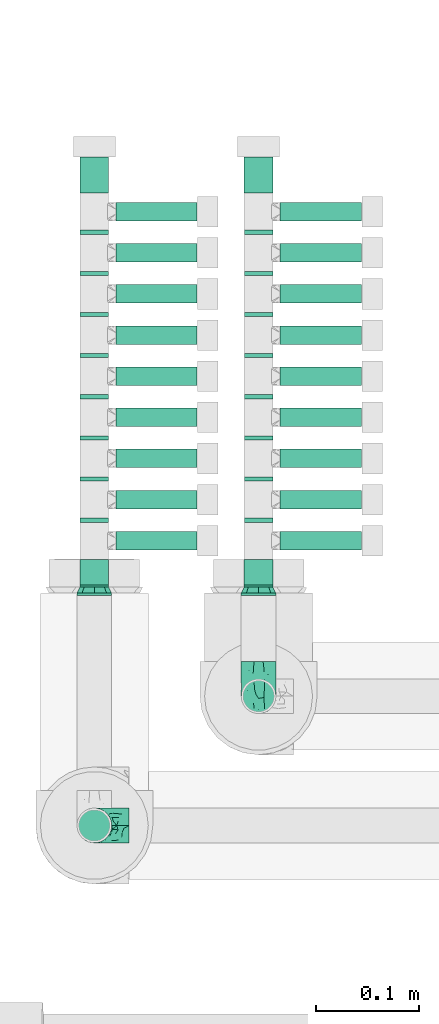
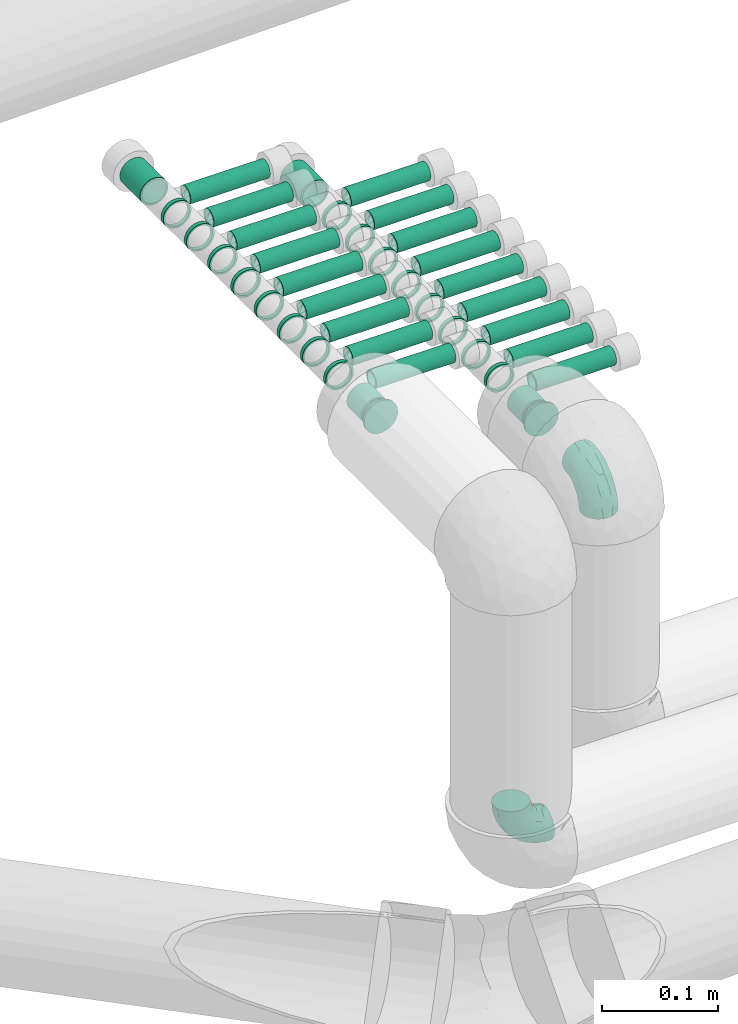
# One storey, part 43 of 83: 38 flow segments, 4 flow fittings.
"""IFC2X3 building model written with IfcOpenShell, lengths in millimetres."""

import ifcopenshell
import ifcopenshell.guid

model = None  # the IFC model being written
_history = None  # IfcOwnerHistory: only IFC2X3 demands one
_inside = {}  # id of a spatial element -> (the spatial element, [elements in it])
_under = {}  # id of a project, library or spatial element -> (it, [spatial elements below it])
_declared = {}  # id of a project -> (the project, [libraries it declares])
_typed = {}  # id of a type object -> (the type object, [elements of that type])
_made_of = {}  # id of a material, layer set ... -> (it, [elements and type objects made of it])


def new_model(schema):
    """Start an empty IFC model of exactly this schema.

    Asked for "IFC4X3", IfcOpenShell would pick the latest addendum, in which some entities
    have other attributes; the version numbers below select the first issue.
    IFC2X3 requires an IfcOwnerHistory on every rooted entity: one is made here for all.
    """
    global model, _history
    if schema == "IFC4X3":
        model = ifcopenshell.file(schema_version=(4, 3, 0, 0))
    else:
        model = ifcopenshell.file(schema=schema)
    _inside.clear()
    _under.clear()
    _declared.clear()
    _typed.clear()
    _made_of.clear()
    _history = None
    if model.schema == "IFC2X3":
        org = make("IfcOrganization", Name="unknown")
        user = make(
            "IfcPersonAndOrganization",
            ThePerson=make("IfcPerson", FamilyName="unknown"),
            TheOrganization=org,
        )
        app = make(
            "IfcApplication",
            ApplicationDeveloper=org,
            Version="unknown",
            ApplicationFullName="unknown",
            ApplicationIdentifier="unknown",
        )
        _history = make(
            "IfcOwnerHistory",
            OwningUser=user,
            OwningApplication=app,
            ChangeAction="ADDED",
            CreationDate=0,
        )
    return model


def make(cls, **values):
    """One entity of the class cls with the attributes given. An attribute that is None is left unset."""
    return model.create_entity(
        cls, **{name: value for name, value in values.items() if value is not None}
    )


def entity(cls, *values):
    """Any entity or typed value of the class cls, its attributes in the order of the schema. None: left unset."""
    e = model.create_entity(cls)
    for i, value in enumerate(values):
        if value is not None:
            e[i] = value
    return e


def rooted(cls, **values):
    """An entity with a GlobalId (a new one), such as an element, a storey or a relation."""
    return make(cls, GlobalId=ifcopenshell.guid.new(), OwnerHistory=_history, **values)


def si_unit(unit_type, name, prefix=None):
    """IfcSIUnit, for example si_unit("LENGTHUNIT", "METRE", prefix="MILLI")."""
    return make("IfcSIUnit", UnitType=unit_type, Prefix=prefix, Name=name)


def converted_unit(unit_type, name, factor, base, dimensions=None, offset=None):
    """IfcConversionBasedUnit, such as the inch: factor (a typed value) times the base unit."""
    return make(
        "IfcConversionBasedUnit"
        if offset is None
        else "IfcConversionBasedUnitWithOffset",
        ConversionOffset=offset,
        Dimensions=None
        if dimensions is None
        else entity("IfcDimensionalExponents", *dimensions),
        UnitType=unit_type,
        Name=name,
        ConversionFactor=make(
            "IfcMeasureWithUnit", ValueComponent=factor, UnitComponent=base
        ),
    )


def derived_unit(unit_type, elements):
    """IfcDerivedUnit: a product of units, each with its exponent."""
    return make(
        "IfcDerivedUnit",
        Elements=[
            make("IfcDerivedUnitElement", Unit=unit, Exponent=power)
            for unit, power in elements
        ],
        UnitType=unit_type,
    )


def assignment(units):
    """IfcUnitAssignment: the units of a project."""
    return None if units is None else make("IfcUnitAssignment", Units=units)


def point(xyz):
    """IfcCartesianPoint."""
    return None if xyz is None else make("IfcCartesianPoint", Coordinates=xyz)


def direction(xyz):
    """IfcDirection."""
    return None if xyz is None else make("IfcDirection", DirectionRatios=xyz)


def frame(location, z_axis=None, x_axis=None):
    """IfcAxis2Placement3D, a coordinate frame: its origin and axes. An axis left out is left unset."""
    return make(
        "IfcAxis2Placement3D",
        Location=point(location),
        Axis=direction(z_axis),
        RefDirection=direction(x_axis),
    )


def frame_2d(location, x_axis=None):
    """IfcAxis2Placement2D, a coordinate frame in the plane: its origin and x axis."""
    return make(
        "IfcAxis2Placement2D", Location=point(location), RefDirection=direction(x_axis)
    )


def origin_with_axes():
    """The frame at (0, 0, 0) with the z axis (0, 0, 1) and the x axis (1, 0, 0) written out."""
    return frame((0.0, 0.0, 0.0), z_axis=(0.0, 0.0, 1.0), x_axis=(1.0, 0.0, 0.0))


def origin_2d_with_axis():
    """The frame at (0, 0) in the plane with the x axis (1, 0) written out."""
    return frame_2d((0.0, 0.0), x_axis=(1.0, 0.0))


def place(relative_to, where):
    """IfcLocalPlacement: puts the frame where relative to a parent placement (None: the world)."""
    return make(
        "IfcLocalPlacement", PlacementRelTo=relative_to, RelativePlacement=where
    )


def context(
    kind, dimensions, precision=None, world=None, true_north=None, identifier=None
):
    """IfcGeometricRepresentationContext, for example the 3D "Model" context."""
    return make(
        "IfcGeometricRepresentationContext",
        ContextIdentifier=identifier,
        ContextType=kind,
        CoordinateSpaceDimension=dimensions,
        Precision=precision,
        WorldCoordinateSystem=world,
        TrueNorth=true_north,
    )


def subcontext(parent, identifier, kind, view, scale=None):
    """IfcGeometricRepresentationSubContext, for example "Body" below "Model"."""
    return make(
        "IfcGeometricRepresentationSubContext",
        ContextIdentifier=identifier,
        ContextType=kind,
        ParentContext=parent,
        TargetScale=scale,
        TargetView=view,
    )


def project(units=None, contexts=None):
    """IfcProject with its units and contexts."""
    return rooted(
        "IfcProject",
        Name="project",
        RepresentationContexts=contexts,
        UnitsInContext=assignment(units),
    )


def spatial(cls, under=None, at=None, **own):
    """A site, building, storey or space (cls), placed at a placement, below another one or the project."""
    s = rooted(cls, ObjectPlacement=at, **own)
    if under is not None:
        _under.setdefault(under.id(), (under, []))[1].append(s)
    return s


def profile(cls, at=None, kind="AREA", **sizes):
    """A parametric profile (cls). Its sizes go by their IFC names, for example OverallWidth=200.0."""
    return make(cls, ProfileType=kind, Position=at, **sizes)


def hollow_circle(**sizes):
    """IfcCircleHollowProfileDef."""
    return profile("IfcCircleHollowProfileDef", **sizes)


def extrude(swept, where, along, depth):
    """IfcExtrudedAreaSolid: the profile swept, set in the frame where, extruded along a direction by depth."""
    return make(
        "IfcExtrudedAreaSolid",
        SweptArea=swept,
        Position=where,
        ExtrudedDirection=direction(along),
        Depth=depth,
    )


def faces_of(points, faces, orient=None, outer=None):
    """IfcFace entities. A face is a list of loops; a loop is a list of indices into points, from 0.

    orient and outer hold one flag for each loop. By default every Orientation is true, the
    first loop of a face is its IfcFaceOuterBound and the others are IfcFaceBound.
    """
    made = []
    for i, loops in enumerate(faces):
        bounds = []
        for j, loop in enumerate(loops):
            is_outer = j == 0 if outer is None else outer[i][j]
            bounds.append(
                make(
                    "IfcFaceOuterBound" if is_outer else "IfcFaceBound",
                    Bound=make("IfcPolyLoop", Polygon=[points[k] for k in loop]),
                    Orientation=True if orient is None else orient[i][j],
                )
            )
        made.append(make("IfcFace", Bounds=bounds))
    return made


def open_shell(faces, orient=None, outer=None):
    """The faces of one IfcOpenShell. surface_model builds it on its shared points."""
    return ("IfcOpenShell", faces, orient, outer)


def surface_model(cls, points, shells):
    """IfcFaceBasedSurfaceModel or IfcShellBasedSurfaceModel (cls): surfaces that need not close."""
    shared = [point(p) for p in points]
    made = [make(c, CfsFaces=faces_of(shared, fs, o, b)) for c, fs, o, b in shells]
    if cls == "IfcFaceBasedSurfaceModel":
        return make(cls, FbsmFaces=made)
    return make(cls, SbsmBoundary=made)


def shape(context_of_items, identifier, shape_type, items):
    """IfcShapeRepresentation: the items that make up one representation, for example the "Body"."""
    return make(
        "IfcShapeRepresentation",
        ContextOfItems=context_of_items,
        RepresentationIdentifier=identifier,
        RepresentationType=shape_type,
        Items=items,
    )


def source(mapping_origin, context_of_items, identifier, shape_type, items):
    """IfcRepresentationMap: a shape defined once, which mapped items show again and again."""
    return make(
        "IfcRepresentationMap",
        MappingOrigin=mapping_origin,
        MappedRepresentation=shape(context_of_items, identifier, shape_type, items),
    )


def transform(
    local_origin,
    x_axis=None,
    y_axis=None,
    z_axis=None,
    scale=None,
    scale2=None,
    scale3=None,
    uniform=True,
):
    """IfcCartesianTransformationOperator3D, or its non-uniform kind. x_axis, y_axis, z_axis: its Axis1, 2, 3."""
    if uniform:
        return make(
            "IfcCartesianTransformationOperator3D",
            Axis1=direction(x_axis),
            Axis2=direction(y_axis),
            LocalOrigin=point(local_origin),
            Scale=scale,
            Axis3=direction(z_axis),
        )
    return make(
        "IfcCartesianTransformationOperator3DnonUniform",
        Axis1=direction(x_axis),
        Axis2=direction(y_axis),
        LocalOrigin=point(local_origin),
        Scale=scale,
        Axis3=direction(z_axis),
        Scale2=scale2,
        Scale3=scale3,
    )


def mapped(mapping_source, mapping_target):
    """IfcMappedItem: shows the shape of a source again, moved by a transform."""
    return make(
        "IfcMappedItem", MappingSource=mapping_source, MappingTarget=mapping_target
    )


def made_of(thing, what):
    """Note that an element or type object is made of a material, layer set ...; save() writes the relation."""
    if what is not None:
        _made_of.setdefault(what.id(), (what, []))[1].append(thing)
    return thing


def type_object(cls, material=None, **own):
    """A type object (cls), such as IfcWallType, which elements share."""
    return made_of(rooted(cls, **own), material)


def element(
    cls,
    number,
    at=None,
    inside=None,
    cuts=None,
    type_object=None,
    material=None,
    context=None,
    identifier="Body",
    shape_type=None,
    held_by="IfcProductDefinitionShape",
    body=None,
    shapes=None,
    **own,
):
    """One element of the class cls, such as IfcWall. Its Tag is "e" and its number.

    at: its placement. inside: the storey or other place that contains it. cuts: it is an
    opening in that element (IfcRelVoidsElement). A single representation is given by context,
    identifier, shape_type and body (its items); several are given by shapes. held_by: the class
    of the entity that holds the representations. save() writes the other relations.
    """
    e = rooted(cls, Tag="e%d" % number, ObjectPlacement=at, **own)
    if body is not None:
        shapes = [shape(context, identifier, shape_type, body)]
    if shapes is not None:
        e.Representation = make(held_by, Representations=shapes)
    if inside is not None:
        _inside.setdefault(inside.id(), (inside, []))[1].append(e)
    if cuts is not None:
        rooted(
            "IfcRelVoidsElement", RelatingBuildingElement=cuts, RelatedOpeningElement=e
        )
    if type_object is not None:
        _typed.setdefault(type_object.id(), (type_object, []))[1].append(e)
    return made_of(e, material)


def aggregate(whole, parts):
    """IfcRelAggregates: a whole, such as a stair, and the parts it consists of."""
    return rooted("IfcRelAggregates", RelatingObject=whole, RelatedObjects=parts)


def save(model, path):
    """Write the relations noted so far, then the file.

    IfcRelAggregates (storeys below a building ...), IfcRelContainedInSpatialStructure (elements
    in a storey), IfcRelDefinesByType, IfcRelAssociatesMaterial and IfcRelDeclares: one each for
    every whole, place, type object, material and project.
    """
    for whole, parts in _under.values():
        aggregate(whole, parts)
    for where, things in _inside.values():
        rooted(
            "IfcRelContainedInSpatialStructure",
            RelatedElements=things,
            RelatingStructure=where,
        )
    for kind, things in _typed.values():
        rooted("IfcRelDefinesByType", RelatedObjects=things, RelatingType=kind)
    for what, things in _made_of.values():
        rooted("IfcRelAssociatesMaterial", RelatedObjects=things, RelatingMaterial=what)
    for by, libraries in _declared.values():
        rooted("IfcRelDeclares", RelatingContext=by, RelatedDefinitions=libraries)
    model.write(path)


model = new_model("IFC2X3")

# Units and contexts
model_context = context("Model", 3, precision=0.01, world=frame((0.0, 4.29681676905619e-09, 0.0)), true_north=direction((4.01073788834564e-13, 1.0)))
plan_context = context("Plan", 3, precision=0.01, world=frame((0.0, 4.29681676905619e-09, 0.0)), true_north=direction((4.01073788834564e-13, 1.0)))
body_context = subcontext(model_context, "Body", "Model", "MODEL_VIEW")
ifc_project = project(units=[converted_unit("PLANEANGLEUNIT", "DEGREE", entity("IfcPositiveLengthMeasure", 0.0174532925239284), si_unit("PLANEANGLEUNIT", "RADIAN"), dimensions=[0, 0, 0, 0, 0, 0, 0]), si_unit("AREAUNIT", "SQUARE_METRE"), si_unit("LENGTHUNIT", "METRE", prefix="MILLI"), si_unit("MASSUNIT", "GRAM", prefix="KILO"), si_unit("POWERUNIT", "WATT"), si_unit("PRESSUREUNIT", "PASCAL"), si_unit("FORCEUNIT", "NEWTON", prefix="KILO"), si_unit("ELECTRICVOLTAGEUNIT", "VOLT"), si_unit("ELECTRICCURRENTUNIT", "AMPERE"), si_unit("THERMODYNAMICTEMPERATUREUNIT", "DEGREE_CELSIUS"), si_unit("TIMEUNIT", "SECOND"), si_unit("VOLUMEUNIT", "CUBIC_METRE"), derived_unit("LINEARVELOCITYUNIT", [(si_unit("LENGTHUNIT", "METRE"), 1), (si_unit("TIMEUNIT", "SECOND"), -1)]), derived_unit("VOLUMETRICFLOWRATEUNIT", [(si_unit("VOLUMEUNIT", "CUBIC_METRE"), 1), (si_unit("TIMEUNIT", "SECOND"), -1)]), derived_unit("THERMALTRANSMITTANCEUNIT", [(si_unit("POWERUNIT", "WATT"), 1), (si_unit("THERMODYNAMICTEMPERATUREUNIT", "KELVIN"), -1), (si_unit("AREAUNIT", "SQUARE_METRE"), -1)]), derived_unit("SOUNDPRESSUREUNIT", [(si_unit("PRESSUREUNIT", "PASCAL"), 1)])], contexts=[model_context, plan_context])

# Site, building, storey
site_placement = place(None, frame((0.0, -4.29681676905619e-09, 0.0), z_axis=(0.0, 0.0, 1.0), x_axis=(1.0, 0.0, 0.0)))
site = spatial("IfcSite", under=ifc_project, at=site_placement, Name="ENGM", CompositionType="ELEMENT")
building_placement = place(site_placement, frame((0.0, 4.29681676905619e-09, 0.0), z_axis=(0.0, 0.0, 1.0), x_axis=(1.0, 0.0, 0.0)))
building = spatial("IfcBuilding", under=site, at=building_placement, Name="TI", CompositionType="ELEMENT")
storey_placement = place(building_placement, frame((0.0, 0.0, 204000.0), z_axis=(0.0, 0.0, 1.0), x_axis=(1.0, 0.0, 0.0)))
storey = spatial("IfcBuildingStorey", under=building, at=storey_placement, Name="Nivå D", CompositionType="ELEMENT", Elevation=204000.0)

# Flow fittings
pipe_fitting_type_1 = type_object("IfcPipeFittingType", Name="magi_pipe_fe_elbow_short_001", PredefinedType="BEND")
shared_shape_1 = source(origin_with_axes(), body_context, "Body", "SurfaceModel", [
    surface_model("IfcShellBasedSurfaceModel", [(-33.8, 4.37404, -16.32415), (-33.8, 0.0, -16.9), (-33.8, 11.9501, -11.9501), (-33.8, 8.45, -14.63583), (-33.8, 16.32415, -4.37404), (-33.8, 14.63583, -8.45), (-33.8, -14.63583, -8.45), (-33.8, -16.32415, -4.37404), (-33.8, -8.45, 14.63583), (-33.8, -11.9501, -11.9501), (-33.8, -8.45, -14.63583), (-33.8, -4.37404, -16.32415), (-33.8, -16.9, 0.0), (-33.8, -16.32415, 4.37404), (-33.8, 11.9501, 11.9501), (-33.8, 14.63583, 8.45), (-33.8, 16.32415, 4.37404), (-33.8, 4.37404, 16.32415), (-33.8, 8.45, 14.63583), (-33.8, -14.63583, 8.45), (-33.8, -11.9501, 11.9501), (-33.8, -4.37404, 16.32415), (-33.8, 0.0, 16.9), (-33.8, 16.9, 0.0), (-11.9501, 33.8, -11.9501), (0.0, 33.8, -16.9), (-4.37404, 33.8, -16.32415), (-8.45, 33.8, -14.63583), (-14.63583, 33.8, -8.45), (-16.32415, 33.8, -4.37404), (14.63583, 33.8, -8.45), (8.45, 33.8, 14.63583), (16.32415, 33.8, -4.37404), (8.45, 33.8, -14.63583), (11.9501, 33.8, -11.9501), (4.37404, 33.8, -16.32415), (16.32415, 33.8, 4.37404), (16.9, 33.8, 0.0), (-11.9501, 33.8, 11.9501), (-16.32415, 33.8, 4.37404), (-14.63583, 33.8, 8.45), (-8.45, 33.8, 14.63583), (-4.37404, 33.8, 16.32415), (11.9501, 33.8, 11.9501), (14.63583, 33.8, 8.45), (0.0, 33.8, 16.9), (4.37404, 33.8, 16.32415), (-16.9, 33.8, 0.0), (-24.79389, -13.12945, 9.48721), (-22.19287, -9.75018, 12.59315), (-24.09897, -14.97035, 0.0), (-14.93934, -10.76256, 8.5297), (-22.46095, -14.75051, 5.27077), (14.75051, 22.46094, 5.27077), (11.9251, 13.23888, 4.33236), (13.04069, 14.39795, 0.0), (7.71387, 13.68847, 11.55891), (9.75018, 22.19287, 12.59315), (4.10169, 13.0571, 14.04018), (-24.84007, -6.39063, 15.2048), (-25.81779, -2.23879, 16.61097), (-23.66549, 2.59054, 16.87119), (-26.50418, 14.06512, 11.08152), (-24.21253, 17.66365, 7.72657), (-29.58514, 15.86957, 7.00283), (-6.17382, -7.5455, 0.0), (-13.23888, -11.9251, 4.33236), (-14.39795, -13.04069, 0.0), (-17.81434, 18.87373, 11.97104), (-6.30846, 29.15138, 15.82987), (-2.31622, 25.28002, 16.85849), (-29.23923, 10.23435, 13.77053), (-1.45439, -2.85688, 7.61475), (-0.28326, 0.34872, 10.09509), (-5.74484, -4.04709, 10.4122), (-4.41137, 11.31918, 16.59407), (-8.39727, 3.10034, 15.7812), (-1.72649, 9.1306, 15.53089), (-17.39909, 24.75344, 7.64977), (-26.19233, 20.0512, 0.0), (-28.14518, 17.29657, 4.25857), (-26.05147, 6.6281, 15.96447), (-5.87354, 16.61944, 16.86968), (-12.51807, 12.51807, 16.48937), (-10.06312, 7.38516, 16.81295), (-3.01882, 3.01882, 13.81718), (-13.0571, -4.10169, 14.04018), (-16.82553, -0.15166, 16.38038), (10.76256, 14.93934, 8.5297), (13.12945, 24.79389, 9.48721), (6.39063, 24.84007, 15.2048), (2.23879, 25.81779, 16.61097), (-13.68847, -7.71387, 11.55891), (14.97035, 24.09897, 0.0), (-7.30894, 22.89991, 16.09489), (-10.67958, 26.17414, 14.008), (-12.78295, 18.26924, 15.06066), (-13.88562, 22.45231, 12.93244), (-18.04944, 15.16501, 14.04434), (-23.11658, 20.08178, 4.02986), (-21.84989, 21.84989, 0.0), (-18.55817, 25.48277, 3.93065), (-13.95142, 26.94732, 11.03289), (-18.57098, 7.23906, 16.59756), (-16.58335, 4.14122, 16.89279), (-17.96666, 11.46709, 15.63151), (-9.84453, 17.54304, 16.18938), (0.15166, 16.82553, 16.38038), (-23.27207, 11.47201, 14.23154), (3.84842, 5.86994, 10.70473), (-8.0212, -7.54413, 7.93275), (1.00345, -2.19508, 4.57414), (5.13203, 3.01004, 5.90201), (5.24161, 1.7543, 2.53265), (8.70457, 7.04947, 3.99182), (-20.0512, 26.19233, 0.0), (8.4852, 8.76699, 7.09296), (-4.55488, -6.72064, 4.90681), (2.05031, -2.05031, 0.0), (7.5455, 6.17382, 0.0), (-26.75399, 2.1369, -16.845), (-14.61995, 24.73803, -11.27736), (-28.45274, -13.45335, -9.81895), (-26.00469, 6.63555, -15.96645), (-23.06726, 20.04573, -4.26202), (-13.80647, -4.26506, -14.17873), (-14.67501, -0.21081, -16.07388), (-6.7902, -0.2828, -13.8478), (-24.53586, 11.08096, -14.13417), (-26.72048, 14.00837, -11.05776), (10.0967, 24.44989, -12.75976), (5.83237, 21.40218, -15.03047), (6.66249, 28.54238, -15.38093), (-20.38182, 15.48705, -12.74596), (12.53268, 21.23441, -9.15363), (12.54494, 15.67504, -5.54878), (9.7522, 12.89279, -8.66343), (-15.65186, 19.64213, -13.01327), (-12.03528, 20.66498, -14.67665), (-15.61907, 15.61906, -14.83879), (-25.56551, -15.26206, 0.0), (-24.65452, -15.12934, -5.50955), (13.45335, 28.45274, -9.81895), (15.12934, 24.65452, -5.50955), (-7.35442, -8.31014, -5.65563), (-15.67504, -12.54494, -5.54878), (-24.44989, -10.0967, -12.75976), (0.16522, 0.41303, -9.71728), (-5.70658, -5.33066, -8.89288), (-5.13869, -2.37198, -11.53565), (-21.23441, -12.53268, -9.15363), (0.71146, 7.93863, -14.09382), (0.21081, 14.67501, -16.07388), (3.49291, 14.42772, -14.76381), (-24.89911, -2.13088, -16.591), (-28.54238, -6.66249, -15.38093), (-18.44386, -7.71663, -13.26957), (2.13088, 24.89911, -16.591), (-28.64342, 17.44413, -2.89318), (1.70017, -1.28722, -5.09504), (-16.57067, 26.81947, -7.36596), (-17.69055, 27.4263, -3.76405), (-12.89279, -9.7522, -8.66343), (-5.96611, 5.96611, -15.95814), (-20.53709, 20.09345, -8.28985), (-2.1369, 26.75399, -16.845), (-6.89872, 24.58781, -16.02578), (-10.60739, 26.53157, -13.98044), (-21.40218, -5.83237, -15.03047), (2.93192, 5.89627, -11.55917), (6.89393, 12.61842, -11.82233), (5.58056, 5.95325, -8.79455), (-3.99512, 18.61798, -16.89635), (8.31014, 7.35442, -5.65563), (-9.1383, 9.86148, -16.89041), (-9.99983, 16.02119, -16.39699), (-16.68576, 9.78031, -16.34199), (-27.01915, 16.61158, -7.12979), (15.26206, 25.56551, 0.0), (-18.61798, 3.99512, -16.89635), (-19.37495, 27.82495, 0.0), (-12.61842, -6.89393, -11.82233), (-18.84705, 19.14018, -10.96545)], [open_shell([[[0, 1, 2]], [[3, 0, 2]], [[4, 5, 2]], [[6, 2, 1]], [[2, 7, 8]], [[9, 6, 10]], [[1, 11, 10]], [[10, 6, 1]], [[2, 6, 7]], [[12, 13, 7]], [[4, 2, 14]], [[4, 15, 16]], [[4, 14, 15]], [[17, 18, 14]], [[14, 2, 8]], [[17, 14, 8]], [[19, 20, 13]], [[20, 7, 13]], [[21, 22, 8]], [[20, 8, 7]], [[8, 22, 17]], [[4, 16, 23]], [[24, 25, 26]], [[24, 26, 27]], [[24, 28, 29]], [[25, 24, 30]], [[31, 32, 24]], [[33, 30, 34]], [[33, 35, 25]], [[25, 30, 33]], [[32, 30, 24]], [[32, 36, 37]], [[38, 24, 29]], [[39, 40, 29]], [[40, 38, 29]], [[38, 41, 42]], [[38, 31, 24]], [[31, 38, 42]], [[36, 43, 44]], [[36, 32, 43]], [[31, 45, 46]], [[32, 31, 43]], [[42, 45, 31]], [[39, 29, 47]], [[20, 48, 49]], [[13, 12, 50]], [[51, 48, 52]], [[53, 54, 55]], [[48, 20, 19]], [[13, 52, 19]], [[56, 57, 58]], [[49, 8, 20]], [[49, 59, 8]], [[22, 60, 61]], [[62, 63, 64]], [[65, 66, 67]], [[57, 43, 31]], [[62, 68, 63]], [[42, 69, 70]], [[18, 71, 14]], [[21, 60, 22]], [[72, 73, 74]], [[75, 76, 77]], [[14, 62, 15]], [[40, 39, 78]], [[79, 23, 80]], [[64, 16, 15]], [[22, 61, 17]], [[17, 81, 18]], [[82, 83, 84]], [[74, 85, 86]], [[59, 86, 87]], [[88, 89, 57]], [[90, 31, 46]], [[44, 53, 36]], [[46, 45, 91]], [[54, 53, 88]], [[44, 89, 53]], [[92, 86, 49]], [[89, 44, 43]], [[8, 59, 21]], [[53, 55, 93]], [[93, 36, 53]], [[66, 52, 67]], [[94, 82, 70]], [[95, 96, 94]], [[97, 98, 96]], [[79, 99, 100]], [[41, 38, 95]], [[101, 100, 99]], [[68, 78, 63]], [[42, 41, 69]], [[23, 16, 80]], [[95, 94, 69]], [[78, 101, 99]], [[38, 102, 95]], [[70, 45, 42]], [[97, 95, 102]], [[13, 50, 52]], [[90, 57, 31]], [[57, 90, 58]], [[81, 17, 61]], [[103, 104, 84]], [[105, 81, 103]], [[38, 40, 102]], [[106, 96, 83]], [[94, 106, 82]], [[91, 70, 107]], [[71, 62, 14]], [[62, 108, 98]], [[86, 59, 49]], [[67, 52, 50]], [[60, 59, 87]], [[92, 49, 51]], [[86, 85, 76]], [[91, 90, 46]], [[37, 36, 93]], [[107, 77, 58]], [[107, 58, 90]], [[58, 85, 109]], [[110, 74, 92]], [[72, 74, 110]], [[66, 51, 52]], [[72, 111, 112]], [[113, 114, 112]], [[56, 88, 57]], [[52, 48, 19]], [[49, 48, 51]], [[57, 89, 43]], [[53, 89, 88]], [[103, 81, 61]], [[71, 81, 108]], [[16, 64, 80]], [[63, 78, 99]], [[47, 115, 101]], [[101, 115, 100]], [[40, 78, 102]], [[68, 102, 78]], [[97, 96, 95]], [[105, 98, 108]], [[103, 84, 83]], [[107, 70, 82]], [[76, 84, 87]], [[82, 84, 75]], [[70, 91, 45]], [[90, 91, 107]], [[59, 60, 21]], [[61, 60, 87]], [[73, 85, 74]], [[109, 112, 116]], [[103, 61, 104]], [[105, 103, 83]], [[96, 105, 83]], [[81, 105, 108]], [[96, 98, 105]], [[62, 98, 68]], [[61, 87, 104]], [[87, 84, 104]], [[86, 76, 87]], [[77, 76, 85]], [[58, 77, 85]], [[75, 77, 107]], [[82, 75, 107]], [[76, 75, 84]], [[81, 71, 18]], [[62, 71, 108]], [[95, 69, 41]], [[70, 69, 94]], [[62, 64, 15]], [[80, 63, 99]], [[63, 80, 64]], [[80, 99, 79]], [[66, 65, 117]], [[110, 66, 117]], [[112, 114, 116]], [[118, 117, 65]], [[110, 92, 51]], [[112, 111, 113]], [[119, 55, 54]], [[74, 86, 92]], [[58, 109, 56]], [[116, 56, 109]], [[66, 110, 51]], [[72, 110, 117]], [[111, 72, 117]], [[73, 112, 109]], [[117, 118, 111]], [[113, 111, 118]], [[118, 119, 113]], [[114, 119, 54]], [[119, 114, 113]], [[116, 54, 88]], [[54, 116, 114]], [[116, 88, 56]], [[112, 73, 72]], [[85, 73, 109]], [[78, 39, 101]], [[47, 101, 39]], [[102, 68, 97]], [[97, 68, 98]], [[82, 106, 83]], [[94, 96, 106]], [[0, 120, 1]], [[28, 24, 121]], [[9, 122, 6]], [[3, 123, 0]], [[100, 124, 79]], [[125, 126, 127]], [[128, 2, 129]], [[130, 131, 132]], [[128, 129, 133]], [[134, 135, 136]], [[137, 138, 139]], [[128, 3, 2]], [[67, 140, 141]], [[134, 142, 143]], [[141, 7, 6]], [[144, 65, 145]], [[146, 9, 10]], [[147, 148, 149]], [[145, 141, 150]], [[151, 152, 153]], [[154, 11, 1]], [[10, 155, 146]], [[150, 146, 156]], [[155, 10, 11]], [[143, 135, 134]], [[35, 157, 25]], [[23, 79, 158]], [[148, 159, 144]], [[160, 161, 29]], [[145, 162, 144]], [[163, 152, 151]], [[29, 28, 160]], [[121, 164, 160]], [[33, 34, 130]], [[25, 165, 26]], [[26, 165, 166]], [[142, 34, 30]], [[24, 27, 167]], [[124, 161, 164]], [[157, 35, 132]], [[155, 154, 168]], [[123, 3, 128]], [[169, 170, 171]], [[172, 157, 152]], [[26, 166, 27]], [[132, 35, 33]], [[142, 130, 34]], [[168, 154, 126]], [[136, 135, 173]], [[133, 137, 139]], [[2, 5, 129]], [[170, 131, 130]], [[30, 32, 143]], [[172, 174, 175]], [[176, 123, 128]], [[158, 177, 4]], [[135, 55, 119]], [[167, 27, 166]], [[175, 166, 172]], [[137, 167, 138]], [[122, 141, 6]], [[140, 12, 7]], [[32, 37, 178]], [[170, 130, 134]], [[152, 157, 131]], [[165, 157, 172]], [[153, 170, 151]], [[152, 163, 174]], [[168, 125, 156]], [[122, 146, 150]], [[120, 154, 1]], [[179, 174, 126]], [[179, 126, 154]], [[126, 163, 127]], [[162, 145, 150]], [[140, 7, 141]], [[32, 178, 143]], [[55, 143, 178]], [[177, 129, 5]], [[128, 133, 139]], [[176, 128, 139]], [[120, 123, 179]], [[121, 160, 28]], [[161, 100, 180]], [[166, 175, 138]], [[121, 24, 167]], [[161, 47, 29]], [[79, 124, 158]], [[124, 164, 177]], [[161, 124, 100]], [[136, 171, 170]], [[127, 163, 151]], [[147, 171, 159]], [[148, 144, 162]], [[127, 151, 169]], [[127, 181, 125]], [[129, 177, 164]], [[5, 4, 177]], [[159, 65, 144]], [[67, 141, 145]], [[143, 55, 135]], [[135, 119, 173]], [[123, 120, 0]], [[154, 120, 179]], [[157, 165, 25]], [[166, 165, 172]], [[172, 152, 174]], [[176, 139, 175]], [[126, 174, 163]], [[176, 174, 179]], [[174, 176, 175]], [[123, 176, 179]], [[150, 181, 162]], [[127, 149, 181]], [[181, 148, 162]], [[159, 148, 147]], [[171, 136, 173]], [[170, 134, 136]], [[159, 171, 173]], [[171, 147, 169]], [[169, 147, 149]], [[151, 170, 169]], [[164, 182, 129]], [[182, 121, 137]], [[181, 149, 148]], [[169, 149, 127]], [[182, 137, 133]], [[167, 137, 121]], [[166, 138, 167]], [[175, 139, 138]], [[129, 182, 133]], [[121, 182, 164]], [[161, 160, 164]], [[47, 161, 180]], [[177, 158, 124]], [[23, 158, 4]], [[130, 132, 33]], [[157, 132, 131]], [[143, 142, 30]], [[130, 142, 134]], [[154, 155, 11]], [[146, 155, 168]], [[146, 122, 9]], [[141, 122, 150]], [[152, 131, 153]], [[159, 119, 118]], [[67, 145, 65]], [[170, 153, 131]], [[119, 159, 173]], [[159, 118, 65]], [[156, 125, 181]], [[126, 125, 168]], [[150, 156, 181]], [[168, 156, 146]]])]),
])
for number, where, z_axis, x_axis, name in (
    (1, (603209.87398, 693361.26264, 6283.60000000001), (-1.0, 0.0, 0.0), (0.0, 0.0, 1.0), "magi_pipe_fe_elbow_short_001"),
    (2, (603050.14337, 693235.60884, 6040.5), (0.0, 1.0, 0.0), (-1.0, 0.0, 0.0), "magi_pipe_fe_elbow_short_001"),
):
    element("IfcFlowFitting", number, at=place(storey_placement, frame(where, z_axis=z_axis, x_axis=x_axis)), inside=storey, type_object=pipe_fitting_type_1, Name=name, context=body_context, shape_type="MappedRepresentation", body=[
        mapped(shared_shape_1, transform((0.0, 0.0, 0.0), scale=1.0)),
    ])
pipe_fitting_type_2 = type_object("IfcPipeFittingType", Name="magi_pipe_fe_reducer_centric_short_NOR", PredefinedType="TRANSITION")
shared_shape_2 = source(origin_with_axes(), body_context, "Body", "SurfaceModel", [
    surface_model("IfcShellBasedSurfaceModel", [(-2.0, 11.9501, 11.9501), (-2.0, 0.0, 16.9), (-2.0, 4.37404, 16.32415), (-2.0, 8.45, 14.63583), (-2.0, 14.63583, 8.45), (-2.0, 16.32415, 4.37404), (-2.0, -16.32415, 4.37404), (-2.0, -8.45, 14.63583), (-2.0, -14.63583, 8.45), (-2.0, -11.9501, 11.9501), (-2.0, -4.37404, 16.32415), (-2.0, -16.32415, -4.37404), (-2.0, -16.9, 0.0), (-2.0, -8.45, -14.63583), (-2.0, 16.32415, -4.37404), (-2.0, 11.9501, -11.9501), (-2.0, 14.63583, -8.45), (-2.0, 8.45, -14.63583), (-2.0, 4.37404, -16.32415), (-2.0, 0.0, -16.9), (-2.0, -11.9501, -11.9501), (-2.0, -14.63583, -8.45), (-2.0, -4.37404, -16.32415), (-2.0, 16.9, 0.0), (0.0, 4.37404, -16.32415), (0.0, 8.45, -14.63583), (0.0, 11.9501, -11.9501), (0.0, 0.0, -16.9), (0.0, 16.32415, -4.37404), (0.0, 16.32415, 4.37404), (0.0, 14.63583, -8.45), (0.0, -8.45, -14.63583), (0.0, -4.37404, -16.32415), (0.0, -11.9501, -11.9501), (0.0, -16.32415, -4.37404), (0.0, -14.63583, -8.45), (0.0, -16.32415, 4.37404), (0.0, 16.9, 0.0), (0.0, 14.63583, 8.45), (0.0, 11.9501, 11.9501), (0.0, 4.37404, 16.32415), (0.0, 8.45, 14.63583), (0.0, 0.0, 16.9), (0.0, -14.63583, 8.45), (0.0, -16.9, 0.0), (0.0, -8.45, 14.63583), (0.0, -11.9501, 11.9501), (0.0, -4.37404, 16.32415), (5.8, -9.89949, -9.89949), (5.8, -9.89949, 9.89949), (5.8, -14.0, 0.0), (7.8, 3.62347, -13.52296), (7.8, 7.0, -12.12436), (7.8, 9.89949, -9.89949), (7.8, 12.12436, -7.0), (7.8, 13.52296, -3.62347), (7.8, -7.0, -12.12436), (7.8, -12.12436, -7.0), (7.8, 14.0, 0.0), (7.8, 0.0, -14.0), (7.8, -3.62347, -13.52296), (7.8, -9.89949, -9.89949), (7.8, -13.52296, -3.62347), (7.8, 13.52296, 3.62347), (7.8, 12.12436, 7.0), (7.8, 9.89949, 9.89949), (7.8, 0.0, 14.0), (7.8, 3.62347, 13.52296), (7.8, 7.0, 12.12436), (7.8, -3.62347, 13.52296), (7.8, -13.52296, 3.62347), (7.8, -9.89949, 9.89949), (7.8, -12.12436, 7.0), (7.8, -14.0, 0.0), (7.8, -7.0, 12.12436), (5.8, 9.89949, 9.89949), (5.8, 0.0, 14.0), (5.8, 3.62347, 13.52296), (5.8, 7.0, 12.12436), (5.8, 12.12436, 7.0), (5.8, 13.52296, 3.62347), (5.8, -12.12436, -7.0), (5.8, -3.62347, 13.52296), (5.8, -7.0, 12.12436), (5.8, -13.52296, 3.62347), (5.8, -12.12436, 7.0), (5.8, 13.52296, -3.62347), (5.8, 3.62347, -13.52296), (5.8, 12.12436, -7.0), (5.8, 9.89949, -9.89949), (5.8, 7.0, -12.12436), (5.8, 0.0, -14.0), (5.8, -7.0, -12.12436), (5.8, -13.52296, -3.62347), (5.8, -3.62347, -13.52296), (5.8, 14.0, 0.0), (5.8, 12.79462, -2.91004), (0.0, 15.44494, -3.51284), (5.8, 4.94975, -11.94975), (0.0, 5.97505, -14.42505), (0.0, 8.96258, -13.18758), (0.0, 2.98753, -15.66253), (5.8, 7.42462, -10.92462), (0.0, 13.18758, -8.96258), (5.8, 11.58924, -5.82008), (5.8, 2.47487, -12.97487), (0.0, -15.44494, -3.51284), (0.0, -14.42505, -5.97505), (5.8, -11.94975, -4.94975), (0.0, 14.42505, -5.97505), (5.8, -2.47487, -12.97487), (5.8, -10.92462, -7.42462), (5.8, -12.97487, -2.47487), (0.0, -13.18758, -8.96258), (5.8, -4.94975, -11.94975), (5.8, -7.42462, -10.92462), (0.0, -5.97505, -14.42505), (0.0, -2.98753, -15.66253), (0.0, -8.96258, -13.18758), (5.8, -12.79462, 2.91004), (0.0, -15.44494, 3.51284), (5.8, -4.94975, 11.94975), (0.0, -5.97505, 14.42505), (0.0, -8.96258, 13.18758), (0.0, -2.98753, 15.66253), (5.8, -7.42462, 10.92462), (0.0, -13.18758, 8.96258), (5.8, -11.58924, 5.82008), (5.8, -2.47487, 12.97487), (0.0, 15.44494, 3.51284), (0.0, 14.42505, 5.97505), (5.8, 11.94975, 4.94975), (0.0, -14.42505, 5.97505), (5.8, 2.47487, 12.97487), (5.8, 10.92462, 7.42462), (5.8, 12.97487, 2.47487), (0.0, 13.18758, 8.96258), (5.8, 4.94975, 11.94975), (5.8, 7.42462, 10.92462), (0.0, 5.97505, 14.42505), (0.0, 2.98753, 15.66253), (0.0, 8.96258, 13.18758)], [open_shell([[[0, 1, 2]], [[0, 2, 3]], [[0, 4, 5]], [[0, 5, 1]], [[1, 5, 6]], [[7, 8, 9]], [[7, 10, 1]], [[8, 7, 1]], [[1, 6, 8]], [[6, 11, 12]], [[6, 5, 13]], [[5, 14, 15]], [[15, 14, 16]], [[15, 17, 18]], [[13, 5, 15]], [[19, 15, 18]], [[11, 20, 21]], [[20, 11, 13]], [[13, 19, 22]], [[11, 6, 13]], [[15, 19, 13]], [[5, 23, 14]], [[24, 25, 26]], [[27, 24, 26]], [[26, 28, 29]], [[28, 26, 30]], [[26, 29, 31]], [[27, 31, 32]], [[27, 26, 31]], [[33, 34, 35]], [[34, 33, 31]], [[31, 36, 34]], [[29, 28, 37]], [[29, 38, 39]], [[29, 39, 40]], [[40, 36, 31]], [[40, 39, 41]], [[36, 40, 42]], [[42, 43, 36]], [[44, 34, 36]], [[43, 45, 46]], [[43, 42, 45]], [[45, 42, 47]], [[31, 29, 40]], [[11, 34, 12]], [[21, 35, 11]], [[31, 20, 13]], [[21, 20, 33]], [[32, 13, 22]], [[11, 35, 34]], [[34, 44, 12]], [[32, 31, 13]], [[33, 20, 31]], [[33, 35, 21]], [[27, 32, 22]], [[22, 19, 27]], [[18, 24, 19]], [[17, 25, 18]], [[30, 15, 16]], [[17, 15, 26]], [[28, 16, 14]], [[17, 26, 25]], [[25, 24, 18]], [[37, 28, 14]], [[30, 16, 28]], [[30, 26, 15]], [[23, 37, 14]], [[19, 24, 27]], [[5, 29, 23]], [[4, 38, 5]], [[41, 0, 3]], [[4, 0, 39]], [[40, 3, 2]], [[5, 38, 29]], [[29, 37, 23]], [[40, 41, 3]], [[39, 0, 41]], [[39, 38, 4]], [[42, 40, 2]], [[2, 1, 42]], [[10, 47, 1]], [[7, 45, 10]], [[43, 9, 8]], [[7, 9, 46]], [[36, 8, 6]], [[7, 46, 45]], [[45, 47, 10]], [[44, 36, 6]], [[43, 8, 36]], [[43, 46, 9]], [[12, 44, 6]], [[1, 47, 42]], [[48, 49, 50]], [[39, 26, 44]], [[33, 44, 27]], [[42, 39, 46]], [[44, 46, 39]], [[39, 37, 26]], [[51, 52, 53]], [[51, 53, 54]], [[51, 55, 56]], [[55, 51, 54]], [[57, 55, 58]], [[59, 56, 60]], [[59, 51, 56]], [[56, 57, 61]], [[55, 57, 56]], [[58, 62, 57]], [[58, 63, 62]], [[63, 64, 65]], [[63, 65, 66]], [[67, 66, 65]], [[67, 65, 68]], [[63, 66, 69]], [[70, 71, 72]], [[69, 70, 73]], [[71, 69, 74]], [[69, 71, 70]], [[73, 63, 69]], [[63, 73, 62]], [[75, 76, 77]], [[75, 77, 78]], [[75, 79, 80]], [[75, 80, 76]], [[50, 76, 81]], [[82, 49, 83]], [[49, 82, 84]], [[49, 84, 85]], [[84, 82, 50]], [[82, 76, 50]], [[76, 80, 81]], [[81, 80, 86]], [[87, 86, 88]], [[89, 90, 87]], [[89, 87, 88]], [[91, 86, 87]], [[81, 92, 48]], [[93, 50, 81]], [[92, 91, 94]], [[92, 81, 86]], [[91, 92, 86]], [[80, 95, 86]], [[93, 62, 50]], [[81, 57, 93]], [[56, 48, 92]], [[81, 48, 61]], [[60, 92, 94]], [[93, 57, 62]], [[62, 73, 50]], [[60, 56, 92]], [[61, 48, 56]], [[61, 57, 81]], [[59, 60, 94]], [[94, 91, 59]], [[87, 51, 91]], [[90, 52, 87]], [[54, 89, 88]], [[90, 89, 53]], [[55, 88, 86]], [[90, 53, 52]], [[52, 51, 87]], [[58, 55, 86]], [[54, 88, 55]], [[54, 53, 89]], [[95, 58, 86]], [[91, 51, 59]], [[80, 63, 95]], [[79, 64, 80]], [[68, 75, 78]], [[79, 75, 65]], [[67, 78, 77]], [[80, 64, 63]], [[63, 58, 95]], [[67, 68, 78]], [[65, 75, 68]], [[65, 64, 79]], [[66, 67, 77]], [[77, 76, 66]], [[82, 69, 76]], [[83, 74, 82]], [[72, 49, 85]], [[83, 49, 71]], [[70, 85, 84]], [[83, 71, 74]], [[74, 69, 82]], [[73, 70, 84]], [[72, 85, 70]], [[72, 71, 49]], [[50, 73, 84]], [[76, 69, 66]], [[76, 49, 95]], [[95, 75, 76]], [[49, 48, 95]], [[91, 95, 48]], [[89, 95, 91]], [[26, 27, 44]], [[96, 37, 95]], [[37, 96, 97]], [[98, 99, 100]], [[91, 27, 101]], [[98, 100, 102]], [[26, 89, 102]], [[89, 103, 104]], [[99, 105, 101]], [[106, 107, 108]], [[96, 109, 97]], [[27, 91, 110]], [[111, 33, 48]], [[50, 44, 112]], [[108, 113, 111]], [[33, 111, 113]], [[114, 115, 116]], [[114, 117, 110]], [[91, 101, 105]], [[115, 48, 118]], [[27, 110, 117]], [[103, 89, 26]], [[103, 109, 104]], [[104, 109, 96]], [[26, 102, 100]], [[105, 99, 98]], [[44, 106, 112]], [[106, 108, 112]], [[113, 108, 107]], [[48, 33, 118]], [[116, 115, 118]], [[117, 114, 116]], [[119, 44, 50]], [[44, 119, 120]], [[121, 122, 123]], [[76, 42, 124]], [[121, 123, 125]], [[46, 49, 125]], [[49, 126, 127]], [[122, 128, 124]], [[129, 130, 131]], [[119, 132, 120]], [[42, 76, 133]], [[134, 39, 75]], [[95, 37, 135]], [[131, 136, 134]], [[39, 134, 136]], [[137, 138, 139]], [[137, 140, 133]], [[76, 124, 128]], [[138, 75, 141]], [[42, 133, 140]], [[126, 49, 46]], [[126, 132, 127]], [[127, 132, 119]], [[46, 125, 123]], [[128, 122, 121]], [[37, 129, 135]], [[129, 131, 135]], [[136, 131, 130]], [[75, 39, 141]], [[139, 138, 141]], [[140, 137, 139]]])]),
])
for number, where, z_axis, x_axis, name in (
    (3, (603209.87398, 693461.44875, 6283.60000000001), (0.0, 0.0, 1.0), (7.49999997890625e-05, 0.9999999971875, 0.0), "magi_pipe_fe_reducer_centric_short_NOR"),
    (4, (603050.14337, 693461.44875, 6342.19716000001), (0.0, 0.0, 1.0), (0.0, 1.0, 0.0), "magi_pipe_fe_reducer_centric_short_NOR"),
):
    element("IfcFlowFitting", number, at=place(storey_placement, frame(where, z_axis=z_axis, x_axis=x_axis)), inside=storey, type_object=pipe_fitting_type_2, Name=name, context=body_context, shape_type="MappedRepresentation", body=[
        mapped(shared_shape_2, transform((0.0, 0.0, 0.0), scale=1.0)),
    ])

# Flow segments
pipe_segment_type = type_object("IfcPipeSegmentType", Name="PEX rør", PredefinedType="RIGIDSEGMENT")
shared_shape_3 = source(origin_with_axes(), body_context, "Body", "SweptSolid", [
    extrude(hollow_circle(Radius=9.0, WallThickness=2.0, at=origin_2d_with_axis()), frame((0.0, 0.0, 0.0), z_axis=(1.0, 0.0, 0.0), x_axis=(0.0, 1.0, 0.0)), (0.0, 0.0, 1.0), 79.1),
])
for number, where, z_axis, x_axis, name in (
    (5, (603071.14337, 693512.44874, 6342.22842999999), (0.0, 0.0, 1.0), (1.0, 0.0, 0.0), "PEX rør"),
    (6, (603071.14337, 693552.44874, 6342.22842999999), (0.0, 0.0, 1.0), (1.0, 0.0, 0.0), "PEX rør"),
    (7, (603071.14337, 693592.44874, 6342.22842999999), (0.0, 0.0, 1.0), (1.0, 0.0, 0.0), "PEX rør"),
    (8, (603071.14337, 693632.44874, 6342.22842999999), (0.0, 0.0, 1.0), (1.0, 0.0, 0.0), "PEX rør"),
    (9, (603071.14337, 693672.44874, 6342.22842999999), (0.0, 0.0, 1.0), (1.0, 0.0, 0.0), "PEX rør"),
    (10, (603071.14337, 693712.44874, 6342.22842999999), (0.0, 0.0, 1.0), (1.0, 0.0, 0.0), "PEX rør"),
    (11, (603071.14337, 693752.44874, 6342.22842999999), (0.0, 0.0, 1.0), (1.0, 0.0, 0.0), "PEX rør"),
    (12, (603071.14337, 693792.44874, 6342.22842999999), (0.0, 0.0, 1.0), (1.0, 0.0, 0.0), "PEX rør"),
    (13, (603071.14337, 693832.44874, 6342.22842999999), (0.0, 0.0, 1.0), (1.0, 0.0, 0.0), "PEX rør"),
    (14, (603230.87398, 693512.44819, 6283.60000000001), (0.0, 0.0, 1.0), (1.0, 0.0, 0.0), "PEX rør"),
    (15, (603230.87398, 693552.44819, 6283.60000000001), (0.0, 0.0, 1.0), (1.0, 0.0, 0.0), "PEX rør"),
    (16, (603230.87398, 693592.44819, 6283.60000000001), (0.0, 0.0, 1.0), (1.0, 0.0, 0.0), "PEX rør"),
    (17, (603230.87398, 693632.44819, 6283.60000000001), (0.0, 0.0, 1.0), (1.0, 0.0, 0.0), "PEX rør"),
    (18, (603230.87398, 693672.44819, 6283.60000000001), (0.0, 0.0, 1.0), (1.0, 0.0, 0.0), "PEX rør"),
    (19, (603230.87398, 693712.44819, 6283.60000000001), (0.0, 0.0, 1.0), (1.0, 0.0, 0.0), "PEX rør"),
    (20, (603230.87398, 693752.44819, 6283.60000000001), (0.0, 0.0, 1.0), (1.0, 0.0, 0.0), "PEX rør"),
    (21, (603230.87398, 693792.44819, 6283.60000000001), (0.0, 0.0, 1.0), (1.0, 0.0, 0.0), "PEX rør"),
    (22, (603230.87398, 693832.44819, 6283.60000000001), (0.0, 0.0, 1.0), (1.0, 0.0, 0.0), "PEX rør"),
):
    element("IfcFlowSegment", number, at=place(storey_placement, frame(where, z_axis=z_axis, x_axis=x_axis)), inside=storey, type_object=pipe_segment_type, Name=name, context=body_context, shape_type="MappedRepresentation", body=[
        mapped(shared_shape_3, transform((0.0, 0.0, 0.0), scale=1.0)),
    ])
shared_shape_4 = source(origin_with_axes(), body_context, "Body", "SweptSolid", [
    extrude(hollow_circle(Radius=14.0, WallThickness=2.0, at=origin_2d_with_axis()), frame((0.0, 0.0, 0.0), z_axis=(1.0, 0.0, 0.0), x_axis=(0.0, 1.0, 0.0)), (0.0, 0.0, 1.0), 4.0),
])
for number, where, z_axis, x_axis, name in (
    (23, (603050.14337, 693534.44874, 6342.22842999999), (1.0, 0.0, 0.0), (0.0, -1.0, 0.0), "PEX rør"),
    (24, (603050.14337, 693574.44874, 6342.22842999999), (1.0, 0.0, 0.0), (0.0, -1.0, 0.0), "PEX rør"),
    (25, (603050.14337, 693614.44874, 6342.22842999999), (1.0, 0.0, 0.0), (0.0, -1.0, 0.0), "PEX rør"),
    (26, (603050.14337, 693654.44874, 6342.22842999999), (1.0, 0.0, 0.0), (0.0, -1.0, 0.0), "PEX rør"),
    (27, (603050.14337, 693694.44874, 6342.22842999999), (1.0, 0.0, 0.0), (0.0, -1.0, 0.0), "PEX rør"),
    (28, (603050.14337, 693734.44874, 6342.22842999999), (1.0, 0.0, 0.0), (0.0, -1.0, 0.0), "PEX rør"),
    (29, (603050.14337, 693774.44874, 6342.22842999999), (1.0, 0.0, 0.0), (0.0, -1.0, 0.0), "PEX rør"),
    (30, (603209.87398, 693534.44819, 6283.60000000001), (1.0, 0.0, 0.0), (0.0, -1.0, 0.0), "PEX rør"),
    (31, (603209.87398, 693574.44819, 6283.60000000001), (1.0, 0.0, 0.0), (0.0, -1.0, 0.0), "PEX rør"),
    (32, (603209.87398, 693614.44819, 6283.60000000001), (1.0, 0.0, 0.0), (0.0, -1.0, 0.0), "PEX rør"),
    (33, (603209.87398, 693654.44819, 6283.60000000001), (1.0, 0.0, 0.0), (0.0, -1.0, 0.0), "PEX rør"),
    (34, (603209.87398, 693694.44819, 6283.60000000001), (1.0, 0.0, 0.0), (0.0, -1.0, 0.0), "PEX rør"),
    (35, (603209.87398, 693734.44819, 6283.60000000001), (1.0, 0.0, 0.0), (0.0, -1.0, 0.0), "PEX rør"),
    (36, (603209.87398, 693774.44819, 6283.60000000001), (1.0, 0.0, 0.0), (0.0, -1.0, 0.0), "PEX rør"),
    (37, (603209.87398, 693810.44819, 6283.60000000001), (-1.0, 0.0, 0.0), (0.0, 1.0, 0.0), "PEX rør"),
    (38, (603050.14337, 693810.44874, 6342.22842999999), (-1.0, 0.0, 0.0), (0.0, 1.0, 0.0), "PEX rør"),
):
    element("IfcFlowSegment", number, at=place(storey_placement, frame(where, z_axis=z_axis, x_axis=x_axis)), inside=storey, type_object=pipe_segment_type, Name=name, context=body_context, shape_type="MappedRepresentation", body=[
        mapped(shared_shape_4, transform((0.0, 0.0, 0.0), scale=1.0)),
    ])
shared_shape_5 = source(origin_with_axes(), body_context, "Body", "SweptSolid", [
    extrude(hollow_circle(Radius=14.0, WallThickness=2.0, at=origin_2d_with_axis()), frame((0.0, 0.0, 0.0), z_axis=(1.0, 0.0, 0.0), x_axis=(0.0, 1.0, 0.0)), (0.0, 0.0, 1.0), 35.0),
])
for number, where, z_axis, x_axis, name in (
    (39, (603209.87398, 693850.44819, 6283.60000000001), (0.0, 0.0, 1.0), (0.0, 1.0, 0.0), "PEX rør"),
    (40, (603050.14337, 693850.44874, 6342.22842999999), (0.0, 0.000811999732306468, 0.999999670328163), (0.0, 0.999999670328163, -0.000811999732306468), "PEX rør"),
):
    element("IfcFlowSegment", number, at=place(storey_placement, frame(where, z_axis=z_axis, x_axis=x_axis)), inside=storey, type_object=pipe_segment_type, Name=name, context=body_context, shape_type="MappedRepresentation", body=[
        mapped(shared_shape_5, transform((0.0, 0.0, 0.0), scale=1.0)),
    ])
shared_shape_6 = source(origin_with_axes(), body_context, "Body", "SweptSolid", [
    extrude(hollow_circle(Radius=14.0, WallThickness=2.0, at=origin_2d_with_axis()), frame((0.0, 0.0, 0.0), z_axis=(1.0, 0.0, 0.0), x_axis=(0.0, 1.0, 0.0)), (0.0, 0.0, 1.0), 27.2),
])
for number, where, z_axis, x_axis, name in (
    (41, (603209.87398, 693494.44819, 6283.60000000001), (0.0, 0.0, 1.0), (1.9999999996e-05, -0.9999999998, 0.0), "PEX rør"),
    (42, (603050.14337, 693494.44874, 6342.22842999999), (0.0, -0.00115100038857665, 0.999999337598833), (0.0, -0.999999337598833, -0.00115100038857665), "PEX rør"),
):
    element("IfcFlowSegment", number, at=place(storey_placement, frame(where, z_axis=z_axis, x_axis=x_axis)), inside=storey, type_object=pipe_segment_type, Name=name, context=body_context, shape_type="MappedRepresentation", body=[
        mapped(shared_shape_6, transform((0.0, 0.0, 0.0), scale=1.0, scale2=1.0, scale3=1.0, uniform=False)),
    ])

save(model, "model.ifc")
